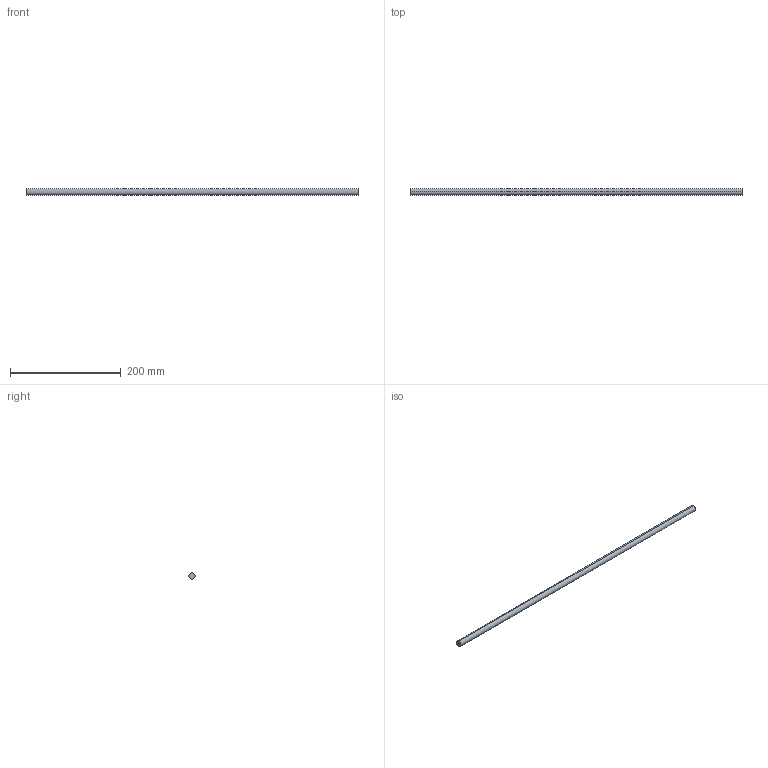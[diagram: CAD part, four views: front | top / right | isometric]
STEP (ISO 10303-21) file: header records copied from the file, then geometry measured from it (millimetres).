
FILE_DESCRIPTION (( 'STEP AP214' ), '1' );
FILE_NAME ('Querreling_2S-Rel_7102_KAB-700.step', '2010-09-22T15:05:55', ( 'grass' ), ( '' ), 'SwSTEP 2.0', 'SolidWorks 2010', '' );
FILE_SCHEMA (( 'AUTOMOTIVE_DESIGN' ));
Length unit declared in the file: millimetre
Products named in the file (1): Querreling_2S-Rel_7102_KAB-700
Bounding box: 599 x 11 x 11 mm (x, y, z)
Volume: 56924.9 mm3; surface area: 20890 mm2
Topology: 1 solids, 1 shells, 4 faces, 6 edges, 4 vertices
Faces by surface type: cylinder 2, plane 2
Entity records: 128 total; most frequent: DIRECTION 20, CARTESIAN_POINT 15, ORIENTED_EDGE 12, AXIS2_PLACEMENT_3D 9, EDGE_CURVE 6, VERTEX_POINT 4, ADVANCED_FACE 4, FACE_OUTER_BOUND 4
